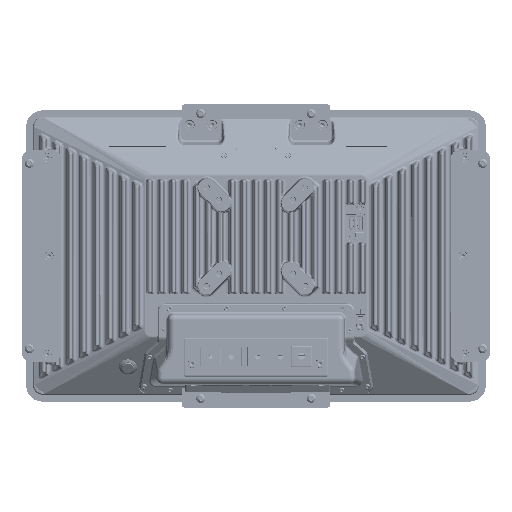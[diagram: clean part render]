
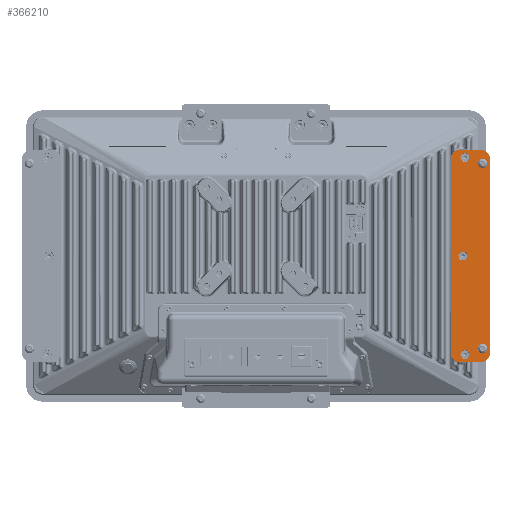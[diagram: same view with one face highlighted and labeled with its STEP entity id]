
A CAD part, top view. The second image highlights one B-rep face of the part: STEP entity #366210.
In plain terms, the highlighted planar face has unit normal (0, 0, 1).
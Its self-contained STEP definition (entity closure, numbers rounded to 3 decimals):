
#4099=FACE_BOUND('',#51576,.T.);
#4100=FACE_BOUND('',#51577,.T.);
#4101=FACE_BOUND('',#51578,.T.);
#4102=FACE_BOUND('',#51579,.T.);
#4103=FACE_BOUND('',#51580,.T.);
#31273=FACE_OUTER_BOUND('',#51575,.T.);
#51575=EDGE_LOOP('',(#312038,#312039,#312040,#312041,#312042,#312043,#312044,
#312045));
#51576=EDGE_LOOP('',(#312046));
#51577=EDGE_LOOP('',(#312047));
#51578=EDGE_LOOP('',(#312048));
#51579=EDGE_LOOP('',(#312049));
#51580=EDGE_LOOP('',(#312050));
#61092=CIRCLE('',#393288,3.6);
#61093=CIRCLE('',#393290,3.6);
#61095=CIRCLE('',#393293,10.);
#61096=CIRCLE('',#393296,10.);
#61097=CIRCLE('',#393297,10.);
#61098=CIRCLE('',#393298,10.);
#61099=CIRCLE('',#393299,4.5);
#61100=CIRCLE('',#393300,4.5);
#61101=CIRCLE('',#393301,4.5);
#96989=LINE('',#657173,#133446);
#96992=LINE('',#657179,#133449);
#96993=LINE('',#657183,#133450);
#96994=LINE('',#657187,#133451);
#133446=VECTOR('',#480479,10.);
#133449=VECTOR('',#480484,10.);
#133450=VECTOR('',#480487,10.);
#133451=VECTOR('',#480490,10.);
#165079=VERTEX_POINT('',#657155);
#165080=VERTEX_POINT('',#657159);
#165083=VERTEX_POINT('',#657166);
#165084=VERTEX_POINT('',#657168);
#165085=VERTEX_POINT('',#657172);
#165087=VERTEX_POINT('',#657178);
#165088=VERTEX_POINT('',#657180);
#165089=VERTEX_POINT('',#657182);
#165090=VERTEX_POINT('',#657184);
#165091=VERTEX_POINT('',#657186);
#165092=VERTEX_POINT('',#657189);
#165093=VERTEX_POINT('',#657191);
#165094=VERTEX_POINT('',#657193);
#214392=EDGE_CURVE('',#165079,#165079,#61092,.T.);
#214394=EDGE_CURVE('',#165080,#165080,#61093,.T.);
#214397=EDGE_CURVE('',#165083,#165084,#61095,.T.);
#214399=EDGE_CURVE('',#165084,#165085,#96989,.T.);
#214402=EDGE_CURVE('',#165087,#165083,#96992,.T.);
#214403=EDGE_CURVE('',#165088,#165087,#61096,.T.);
#214404=EDGE_CURVE('',#165089,#165088,#96993,.T.);
#214405=EDGE_CURVE('',#165090,#165089,#61097,.T.);
#214406=EDGE_CURVE('',#165091,#165090,#96994,.T.);
#214407=EDGE_CURVE('',#165085,#165091,#61098,.T.);
#214408=EDGE_CURVE('',#165092,#165092,#61099,.T.);
#214409=EDGE_CURVE('',#165093,#165093,#61100,.T.);
#214410=EDGE_CURVE('',#165094,#165094,#61101,.T.);
#312038=ORIENTED_EDGE('',*,*,#214397,.F.);
#312039=ORIENTED_EDGE('',*,*,#214402,.F.);
#312040=ORIENTED_EDGE('',*,*,#214403,.F.);
#312041=ORIENTED_EDGE('',*,*,#214404,.F.);
#312042=ORIENTED_EDGE('',*,*,#214405,.F.);
#312043=ORIENTED_EDGE('',*,*,#214406,.F.);
#312044=ORIENTED_EDGE('',*,*,#214407,.F.);
#312045=ORIENTED_EDGE('',*,*,#214399,.F.);
#312046=ORIENTED_EDGE('',*,*,#214392,.T.);
#312047=ORIENTED_EDGE('',*,*,#214394,.T.);
#312048=ORIENTED_EDGE('',*,*,#214408,.T.);
#312049=ORIENTED_EDGE('',*,*,#214409,.T.);
#312050=ORIENTED_EDGE('',*,*,#214410,.T.);
#330754=PLANE('',#393295);
#366210=ADVANCED_FACE('',(#31273,#4099,#4100,#4101,#4102,#4103),#330754,
 .F.);
#393288=AXIS2_PLACEMENT_3D('',#657157,#480462,#480463);
#393290=AXIS2_PLACEMENT_3D('',#657161,#480467,#480468);
#393293=AXIS2_PLACEMENT_3D('',#657169,#480474,#480475);
#393295=AXIS2_PLACEMENT_3D('',#657177,#480482,#480483);
#393296=AXIS2_PLACEMENT_3D('',#657181,#480485,#480486);
#393297=AXIS2_PLACEMENT_3D('',#657185,#480488,#480489);
#393298=AXIS2_PLACEMENT_3D('',#657188,#480491,#480492);
#393299=AXIS2_PLACEMENT_3D('',#657190,#480493,#480494);
#393300=AXIS2_PLACEMENT_3D('',#657192,#480495,#480496);
#393301=AXIS2_PLACEMENT_3D('',#657194,#480497,#480498);
#480462=DIRECTION('center_axis',(0.,0.,-1.));
#480463=DIRECTION('ref_axis',(0.,-1.,0.));
#480467=DIRECTION('center_axis',(0.,0.,-1.));
#480468=DIRECTION('ref_axis',(0.,-1.,0.));
#480474=DIRECTION('center_axis',(0.,0.,-1.));
#480475=DIRECTION('ref_axis',(0.707,-0.707,0.));
#480479=DIRECTION('',(-1.,0.,0.));
#480482=DIRECTION('center_axis',(0.,0.,-1.));
#480483=DIRECTION('ref_axis',(0.,1.,0.));
#480484=DIRECTION('',(0.,-1.,0.));
#480485=DIRECTION('center_axis',(0.,0.,-1.));
#480486=DIRECTION('ref_axis',(0.707,0.707,0.));
#480487=DIRECTION('',(1.,0.,0.));
#480488=DIRECTION('center_axis',(0.,0.,-1.));
#480489=DIRECTION('ref_axis',(-0.707,0.707,0.));
#480490=DIRECTION('',(0.,1.,0.));
#480491=DIRECTION('center_axis',(0.,0.,-1.));
#480492=DIRECTION('ref_axis',(-0.707,-0.707,0.));
#480493=DIRECTION('center_axis',(0.,0.,-1.));
#480494=DIRECTION('ref_axis',(0.,-1.,0.));
#480495=DIRECTION('center_axis',(0.,0.,-1.));
#480496=DIRECTION('ref_axis',(0.,-1.,0.));
#480497=DIRECTION('center_axis',(0.,0.,-1.));
#480498=DIRECTION('ref_axis',(0.,-1.,0.));
#657155=CARTESIAN_POINT('',(230.,-90.4,5.));
#657157=CARTESIAN_POINT('Origin',(230.,-94.,5.));
#657159=CARTESIAN_POINT('',(230.,97.6,5.));
#657161=CARTESIAN_POINT('Origin',(230.,94.,5.));
#657166=CARTESIAN_POINT('',(237.5,-98.,5.));
#657168=CARTESIAN_POINT('',(227.5,-108.,5.));
#657169=CARTESIAN_POINT('Origin',(227.5,-98.,5.));
#657172=CARTESIAN_POINT('',(207.5,-108.,5.));
#657173=CARTESIAN_POINT('',(237.5,-108.,5.));
#657177=CARTESIAN_POINT('Origin',(217.5,0.,5.));
#657178=CARTESIAN_POINT('',(237.5,98.,5.));
#657179=CARTESIAN_POINT('',(237.5,108.,5.));
#657180=CARTESIAN_POINT('',(227.5,108.,5.));
#657181=CARTESIAN_POINT('Origin',(227.5,98.,5.));
#657182=CARTESIAN_POINT('',(207.5,108.,5.));
#657183=CARTESIAN_POINT('',(197.5,108.,5.));
#657184=CARTESIAN_POINT('',(197.5,98.,5.));
#657185=CARTESIAN_POINT('Origin',(207.5,98.,5.));
#657186=CARTESIAN_POINT('',(197.5,-98.,5.));
#657187=CARTESIAN_POINT('',(197.5,-108.,5.));
#657188=CARTESIAN_POINT('Origin',(207.5,-98.,5.));
#657189=CARTESIAN_POINT('',(210.,4.5,5.));
#657190=CARTESIAN_POINT('Origin',(210.,0.,5.));
#657191=CARTESIAN_POINT('',(212.,-95.5,5.));
#657192=CARTESIAN_POINT('Origin',(212.,-100.,5.));
#657193=CARTESIAN_POINT('',(212.,104.5,5.));
#657194=CARTESIAN_POINT('Origin',(212.,100.,5.));
